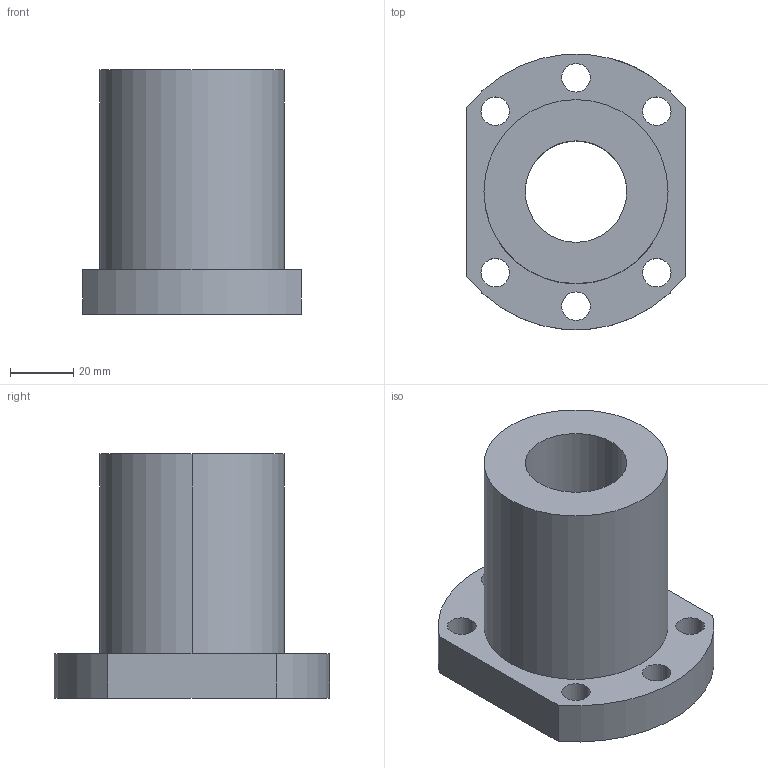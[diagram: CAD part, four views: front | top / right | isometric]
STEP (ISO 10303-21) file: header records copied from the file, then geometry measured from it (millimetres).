
FILE_DESCRIPTION((''),'2;1');
FILE_NAME('A10YWCA1','2018-09-06T',('chw'),(''),'PRO/ENGINEER BY PARAMETRIC TECHNOLOGY CORPORATION, 2012200','PRO/ENGINEER BY PARAMETRIC TECHNOLOGY CORPORATION, 2012200','');
FILE_SCHEMA(('CONFIG_CONTROL_DESIGN'));
Length unit declared in the file: millimetre
Products named in the file (1): A10YWCA1
Bounding box: 69 x 86.7 x 77 mm (x, y, z)
Volume: 172522.2 mm3; surface area: 33990.3 mm2
Topology: 1 solids, 1 shells, 25 faces, 66 edges, 44 vertices
Faces by surface type: cylinder 20, plane 5
Entity records: 912 total; most frequent: CARTESIAN_POINT 189, DIRECTION 148, ORIENTED_EDGE 132, EDGE_CURVE 66, AXIS2_PLACEMENT_3D 61, VERTEX_POINT 44, EDGE_LOOP 42, CIRCLE 36
